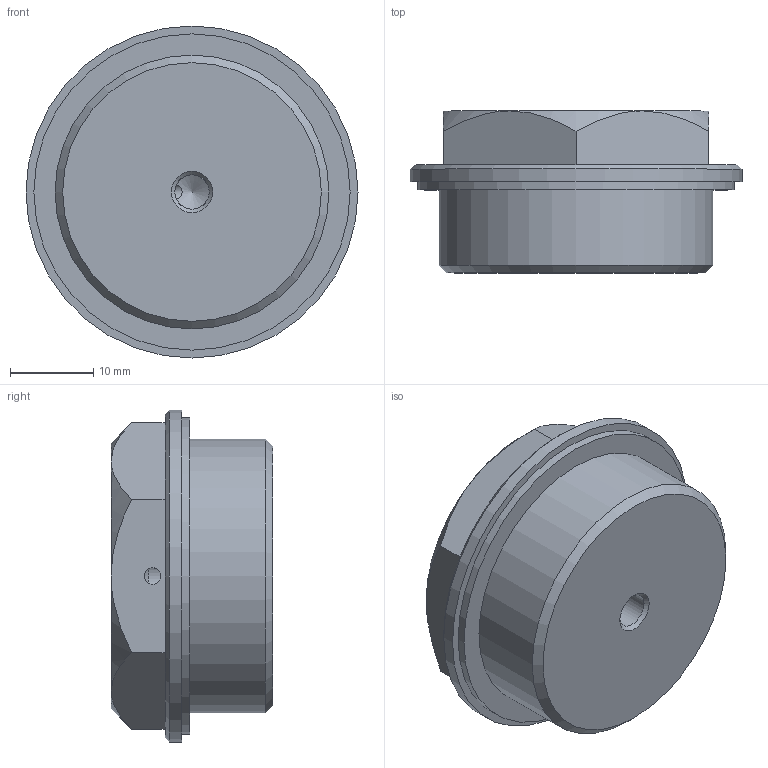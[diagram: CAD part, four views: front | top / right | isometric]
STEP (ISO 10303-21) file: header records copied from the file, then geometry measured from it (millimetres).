
FILE_DESCRIPTION( ( 'STEP AP203' ), '1' );
FILE_NAME( 'C:/Temp/Ganter_Step_05_03_2020/data/3_5/gn742/gn742_2/Threaded plug GN 742-40-M33x1,5-AS-2.stp', '2020-03-12T13:39:23', ( 'License CC BY-ND 4.0' ), ( 'CADENAS' ), ' ', 'PARTsolutions', ' ' );
FILE_SCHEMA( ( 'CONFIG_CONTROL_DESIGN' ) );
Length unit declared in the file: millimetre
Products named in the file (1): _Threaded plug GN 742-40-M33x1,5-AS-2
Bounding box: 40 x 19.5 x 40 mm (x, y, z)
Volume: 17595.4 mm3; surface area: 4766.8 mm2
Topology: 1 solids, 1 shells, 53 faces, 131 edges, 84 vertices
Faces by surface type: plane 38, cone 10, cylinder 5
Full cylindrical faces by diameter (mm): 2 x1, 4.134 x1, 33 x1, 38.1 x1, 40 x1
Entity records: 1621 total; most frequent: CARTESIAN_POINT 381, ORIENTED_EDGE 238, DIRECTION 231, EDGE_CURVE 119, LINE 87, VECTOR 87, VERTEX_POINT 82, AXIS2_PLACEMENT_3D 72
